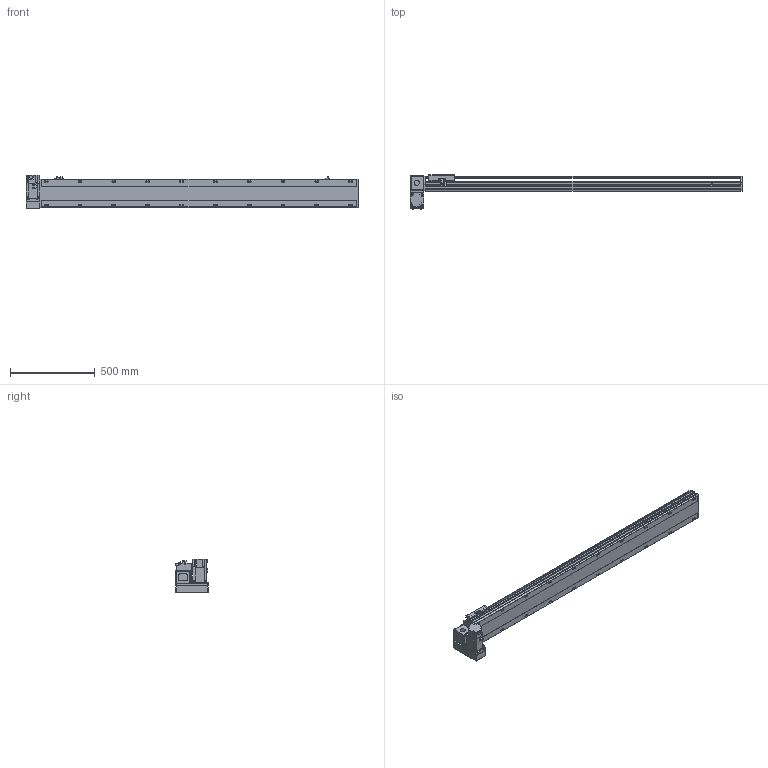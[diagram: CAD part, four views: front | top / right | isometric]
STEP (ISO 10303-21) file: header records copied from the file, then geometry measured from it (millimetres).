
FILE_DESCRIPTION( ( 'STEP AP214' ), '1' );
FILE_NAME( 'x:/temp/worker_4/temp/exporttempdir_2248_337_3jcC2/format_0/PBS170-P40-S1600-LD-T75-C1-N(0).stp', '2022-06-07T07:53:51', ( 'License CC BY-ND 4.0' ), ( 'CADENAS' ), ' ', 'PARTsolutions', ' ' );
FILE_SCHEMA( ( 'AUTOMOTIVE_DESIGN { 1 0 10303 214 1 1 1 1 }' ) );
Length unit declared in the file: millimetre
Products named in the file (7): PBS170-P40-S1600-LD-T75-C1-N(0); _PBS170-S1600()_body; _PBS170T-LD_motors; _T75-p1; _PBS170_sliser; _PBS170_plant; _PBS170_sensor
Assembly tree (8 placements, depth 2):
  PBS170-P40-S1600-LD-T75-C1-N(0)
    _PBS170-S1600()_body
    _PBS170T-LD_motors
    _T75-p1
    _PBS170_sliser
    _PBS170_plant
    _PBS170_sensor  x3
Bounding box: 1963 x 201 x 197.3 mm (x, y, z)
Volume: 15267845.6 mm3; surface area: 1955094.3 mm2
Topology: 8 solids, 8 shells, 1114 faces, 2955 edges, 1926 vertices
Faces by surface type: plane 699, cylinder 355, cone 50, sphere 8, torus 2
Full cylindrical faces by diameter (mm): 3.242 x4, 4 x2, 4.4 x4, 4.5 x6, 4.917 x4, 6 x9, 6.647 x28, 7 x2, 7.5 x4, 8 x8, 8.5 x20, 10 x4, 10.5 x20, 11 x2, 30 x2, 40 x1, 70 x1
Entity records: 41024 total; most frequent: CARTESIAN_POINT 6557, DIRECTION 5440, ORIENTED_EDGE 5148, EDGE_CURVE 2574, AXIS2_PLACEMENT_3D 1897, VERTEX_POINT 1778, LINE 1646, VECTOR 1646
